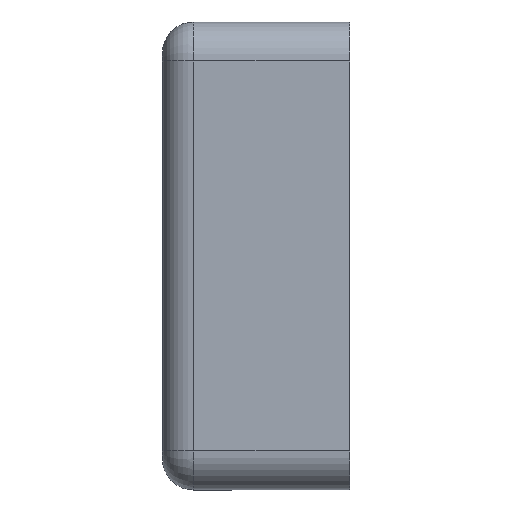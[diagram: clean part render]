
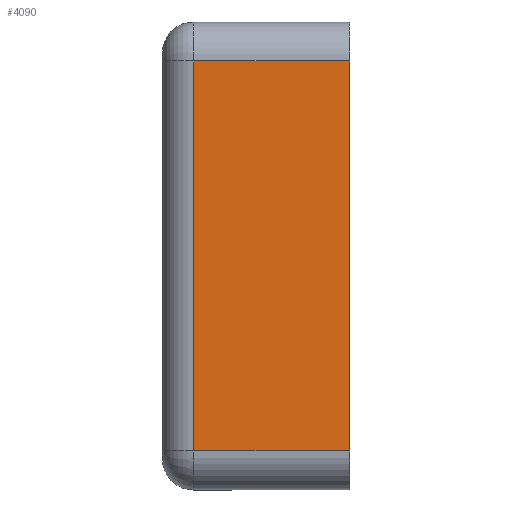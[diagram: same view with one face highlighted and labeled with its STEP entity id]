
A CAD part, left-side view. The second image highlights one B-rep face of the part: STEP entity #4090.
In plain terms, the highlighted planar face has unit normal (-1, 0, 0).
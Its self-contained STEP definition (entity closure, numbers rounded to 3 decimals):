
#208 = PLANE ( 'NONE',  #355 ) ;
#210 = VECTOR ( 'NONE', #3898, 1000. ) ;
#288 = DIRECTION ( 'NONE',  ( 0., 0., -1. ) ) ;
#302 = ORIENTED_EDGE ( 'NONE', *, *, #2290, .F. ) ;
#304 = EDGE_CURVE ( 'NONE', #2681, #5586, #3074, .T. ) ;
#338 = CARTESIAN_POINT ( 'NONE',  ( -30., -6., 18.5 ) ) ;
#355 = AXIS2_PLACEMENT_3D ( 'NONE', #3136, #4607, #1694 ) ;
#486 = CARTESIAN_POINT ( 'NONE',  ( -30., 4., 21. ) ) ;
#730 = CARTESIAN_POINT ( 'NONE',  ( -30., -6., -9. ) ) ;
#1207 = CARTESIAN_POINT ( 'NONE',  ( -30., 6., 18.5 ) ) ;
#1484 = EDGE_LOOP ( 'NONE', ( #2898, #2178, #302, #5122 ) ) ;
#1617 = LINE ( 'NONE', #1207, #5336 ) ;
#1694 = DIRECTION ( 'NONE',  ( 0., 0., -1. ) ) ;
#1828 = EDGE_CURVE ( 'NONE', #3740, #2681, #4041, .T. ) ;
#2178 = ORIENTED_EDGE ( 'NONE', *, *, #1828, .F. ) ;
#2290 = EDGE_CURVE ( 'NONE', #6299, #3740, #1617, .T. ) ;
#2640 = CARTESIAN_POINT ( 'NONE',  ( -30., -6., -6.5 ) ) ;
#2681 = VERTEX_POINT ( 'NONE', #2640 ) ;
#2898 = ORIENTED_EDGE ( 'NONE', *, *, #304, .F. ) ;
#2929 = VECTOR ( 'NONE', #3007, 1000. ) ;
#3007 = DIRECTION ( 'NONE',  ( 0., 1., 0. ) ) ;
#3027 = EDGE_CURVE ( 'NONE', #5586, #6299, #5695, .T. ) ;
#3074 = LINE ( 'NONE', #3976, #2929 ) ;
#3136 = CARTESIAN_POINT ( 'NONE',  ( -30., 6., 21. ) ) ;
#3634 = DIRECTION ( 'NONE',  ( 0., -1., 0. ) ) ;
#3730 = VECTOR ( 'NONE', #288, 1000. ) ;
#3740 = VERTEX_POINT ( 'NONE', #338 ) ;
#3864 = CARTESIAN_POINT ( 'NONE',  ( -30., 4., 18.5 ) ) ;
#3898 = DIRECTION ( 'NONE',  ( 0., 0., 1. ) ) ;
#3976 = CARTESIAN_POINT ( 'NONE',  ( -30., 6., -6.5 ) ) ;
#4023 = FACE_OUTER_BOUND ( 'NONE', #1484, .T. ) ;
#4041 = LINE ( 'NONE', #730, #3730 ) ;
#4090 = ADVANCED_FACE ( 'NONE', ( #4023 ), #208, .F. ) ;
#4607 = DIRECTION ( 'NONE',  ( 1., 0., 0. ) ) ;
#4979 = CARTESIAN_POINT ( 'NONE',  ( -30., 4., -6.5 ) ) ;
#5122 = ORIENTED_EDGE ( 'NONE', *, *, #3027, .F. ) ;
#5336 = VECTOR ( 'NONE', #3634, 1000. ) ;
#5586 = VERTEX_POINT ( 'NONE', #4979 ) ;
#5695 = LINE ( 'NONE', #486, #210 ) ;
#6299 = VERTEX_POINT ( 'NONE', #3864 ) ;
